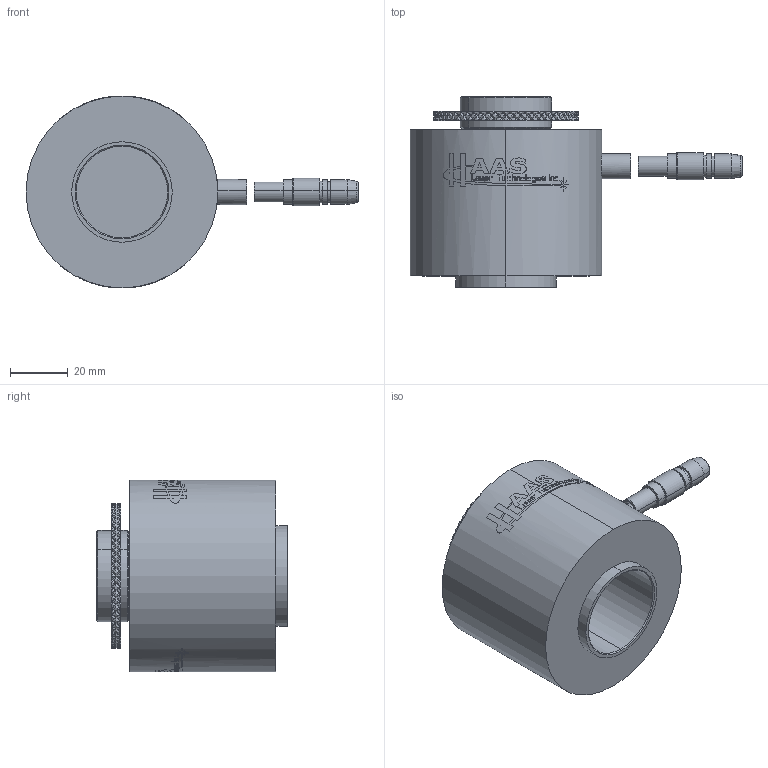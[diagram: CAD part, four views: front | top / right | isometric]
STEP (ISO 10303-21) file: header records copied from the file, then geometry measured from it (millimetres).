
FILE_DESCRIPTION (( 'STEP AP214' ), '1' );
FILE_NAME ('CP-25-V.STEP', '2016-10-26T20:43:18', ( '' ), ( '' ), 'SwSTEP 2.0', 'SolidWorks 2016', '' );
FILE_SCHEMA (( 'AUTOMOTIVE_DESIGN' ));
Length unit declared in the file: inch
Products named in the file (1): CP-25-V
Bounding box: 115.33 x 66.15 x 66.67 mm (x, y, z)
Volume: 162979.1 mm3; surface area: 28228.4 mm2
Topology: 2 solids, 2 shells, 1301 faces, 3307 edges, 2094 vertices
Faces by surface type: plane 983, cylinder 294, torus 16, cone 8
Entity records: 40669 total; most frequent: CARTESIAN_POINT 12526, ORIENTED_EDGE 6614, DIRECTION 4827, EDGE_CURVE 3307, VERTEX_POINT 2094, LINE 1739, VECTOR 1739, AXIS2_PLACEMENT_3D 1544
